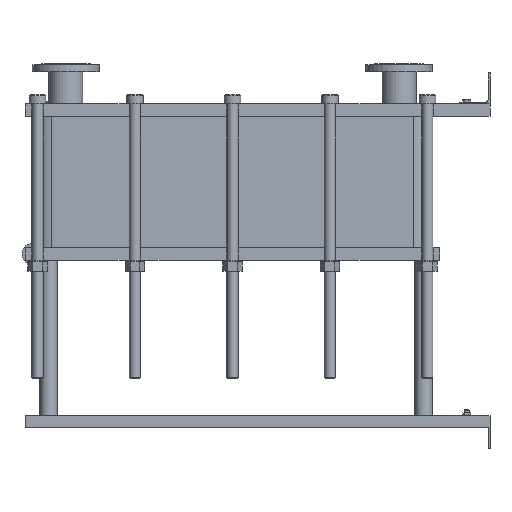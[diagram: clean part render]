
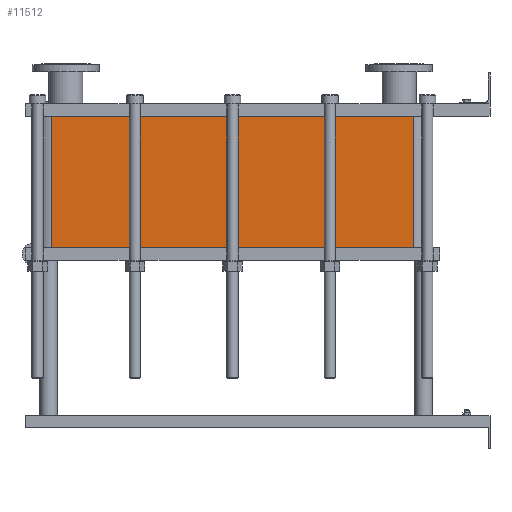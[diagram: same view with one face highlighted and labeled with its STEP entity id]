
A CAD part, left-side view. The second image highlights one B-rep face of the part: STEP entity #11512.
In plain terms, the highlighted planar face has unit normal (-1, 0, 0).
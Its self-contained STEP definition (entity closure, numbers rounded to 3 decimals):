
#1129=LINE('',#23232,#2102);
#1130=LINE('',#23236,#2103);
#1131=LINE('',#23238,#2104);
#1132=LINE('',#23239,#2105);
#2102=VECTOR('',#15887,10.);
#2103=VECTOR('',#15892,10.);
#2104=VECTOR('',#15893,10.);
#2105=VECTOR('',#15894,10.);
#3267=FACE_OUTER_BOUND('',#4093,.T.);
#4093=EDGE_LOOP('',(#10103,#10104,#10105,#10106));
#5642=VERTEX_POINT('',#23229);
#5643=VERTEX_POINT('',#23231);
#5644=VERTEX_POINT('',#23235);
#5645=VERTEX_POINT('',#23237);
#7159=EDGE_CURVE('',#5643,#5642,#1129,.T.);
#7161=EDGE_CURVE('',#5642,#5644,#1130,.T.);
#7162=EDGE_CURVE('',#5645,#5644,#1131,.T.);
#7163=EDGE_CURVE('',#5645,#5643,#1132,.T.);
#10103=ORIENTED_EDGE('',*,*,#7161,.T.);
#10104=ORIENTED_EDGE('',*,*,#7162,.F.);
#10105=ORIENTED_EDGE('',*,*,#7163,.T.);
#10106=ORIENTED_EDGE('',*,*,#7159,.T.);
#10857=PLANE('',#12751);
#11512=ADVANCED_FACE('',(#3267),#10857,.T.);
#12751=AXIS2_PLACEMENT_3D('',#23234,#15890,#15891);
#15887=DIRECTION('',(0.,0.,-1.));
#15890=DIRECTION('center_axis',(-1.,0.,0.));
#15891=DIRECTION('ref_axis',(0.,1.,0.));
#15892=DIRECTION('',(0.,-1.,0.));
#15893=DIRECTION('',(0.,0.,-1.));
#15894=DIRECTION('',(0.,1.,0.));
#23229=CARTESIAN_POINT('',(-200.,1414.,-424.35));
#23231=CARTESIAN_POINT('',(-200.,1414.,0.));
#23232=CARTESIAN_POINT('',(-200.,1414.,0.));
#23234=CARTESIAN_POINT('Origin',(-200.,248.,0.));
#23235=CARTESIAN_POINT('',(-200.,248.,-424.35));
#23236=CARTESIAN_POINT('',(-200.,539.5,-424.35));
#23237=CARTESIAN_POINT('',(-200.,248.,0.));
#23238=CARTESIAN_POINT('',(-200.,248.,0.));
#23239=CARTESIAN_POINT('',(-200.,248.,0.));
